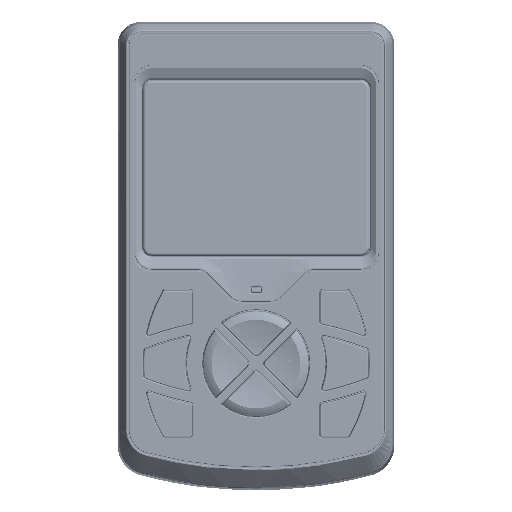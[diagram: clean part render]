
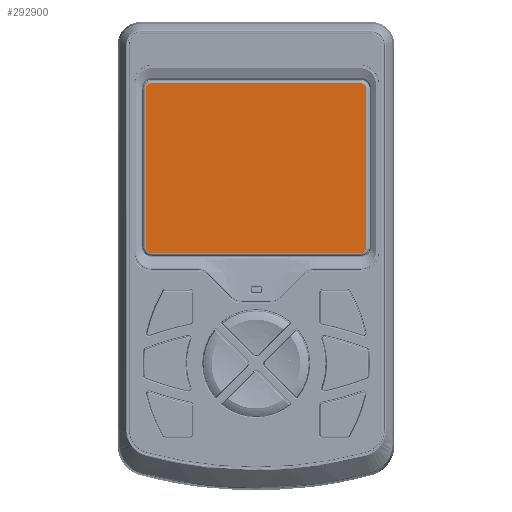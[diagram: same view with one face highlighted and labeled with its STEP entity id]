
A CAD part, top view. The second image highlights one B-rep face of the part: STEP entity #292900.
In plain terms, the highlighted planar face has unit normal (0, 0, 1).
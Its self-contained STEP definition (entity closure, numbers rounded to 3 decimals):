
#3630 = CARTESIAN_POINT ( 'NONE',  ( -35.85, 54.35, 7.77 ) ) ;
#13791 = LINE ( 'NONE', #452652, #624507 ) ;
#18425 = LINE ( 'NONE', #234472, #333065 ) ;
#19642 = AXIS2_PLACEMENT_3D ( 'NONE', #377569, #440967, #104932 ) ;
#36633 = AXIS2_PLACEMENT_3D ( 'NONE', #165065, #118880, #384629 ) ;
#53411 = VECTOR ( 'NONE', #591847, 1000. ) ;
#95253 = CIRCLE ( 'NONE', #355025, 2.196 ) ;
#97568 = CIRCLE ( 'NONE', #165688, 2.196 ) ;
#104932 = DIRECTION ( 'NONE',  ( -1., 0., 0. ) ) ;
#118880 = DIRECTION ( 'NONE',  ( 0., 0., 1. ) ) ;
#126708 = ORIENTED_EDGE ( 'NONE', *, *, #241587, .T. ) ;
#137390 = DIRECTION ( 'NONE',  ( 0., 0., -1. ) ) ;
#143144 = VERTEX_POINT ( 'NONE', #572512 ) ;
#153702 = CARTESIAN_POINT ( 'NONE',  ( -38.046, 0.25, 7.77 ) ) ;
#159848 = LINE ( 'NONE', #375963, #53411 ) ;
#161998 = EDGE_CURVE ( 'NONE', #471404, #356383, #95253, .T. ) ;
#165065 = CARTESIAN_POINT ( 'NONE',  ( 35.85, 0.25, 7.77 ) ) ;
#165688 = AXIS2_PLACEMENT_3D ( 'NONE', #635005, #694963, #528722 ) ;
#176369 = VECTOR ( 'NONE', #649725, 1000. ) ;
#190544 = FACE_OUTER_BOUND ( 'NONE', #639098, .T. ) ;
#191704 = CARTESIAN_POINT ( 'NONE',  ( 35.85, -1.946, 7.77 ) ) ;
#191852 = ORIENTED_EDGE ( 'NONE', *, *, #481629, .T. ) ;
#194029 = PLANE ( 'NONE',  #491176 ) ;
#213716 = EDGE_CURVE ( 'NONE', #356383, #336694, #13791, .T. ) ;
#234472 = CARTESIAN_POINT ( 'NONE',  ( 38.046, 54.35, 7.77 ) ) ;
#241587 = EDGE_CURVE ( 'NONE', #430019, #603615, #358778, .T. ) ;
#261650 = ORIENTED_EDGE ( 'NONE', *, *, #161998, .T. ) ;
#269770 = CARTESIAN_POINT ( 'NONE',  ( -35.85, 56.546, 7.77 ) ) ;
#292900 = ADVANCED_FACE ( 'NONE', ( #190544 ), #194029, .F. ) ;
#293257 = CARTESIAN_POINT ( 'NONE',  ( 37.72, 60.72, 7.77 ) ) ;
#312134 = CARTESIAN_POINT ( 'NONE',  ( 35.85, 56.546, 7.77 ) ) ;
#323501 = EDGE_CURVE ( 'NONE', #143144, #330877, #159848, .T. ) ;
#325826 = DIRECTION ( 'NONE',  ( -1., 0., 0. ) ) ;
#330877 = VERTEX_POINT ( 'NONE', #191704 ) ;
#333065 = VECTOR ( 'NONE', #450313, 1000. ) ;
#336176 = VERTEX_POINT ( 'NONE', #524708 ) ;
#336327 = DIRECTION ( 'NONE',  ( 0., 0., 1. ) ) ;
#336694 = VERTEX_POINT ( 'NONE', #153702 ) ;
#353561 = CIRCLE ( 'NONE', #36633, 2.196 ) ;
#355025 = AXIS2_PLACEMENT_3D ( 'NONE', #3630, #336327, #325826 ) ;
#356383 = VERTEX_POINT ( 'NONE', #687254 ) ;
#358778 = CIRCLE ( 'NONE', #19642, 2.196 ) ;
#375963 = CARTESIAN_POINT ( 'NONE',  ( 35.85, -1.946, 7.77 ) ) ;
#377569 = CARTESIAN_POINT ( 'NONE',  ( 35.85, 54.35, 7.77 ) ) ;
#384117 = LINE ( 'NONE', #600044, #176369 ) ;
#384629 = DIRECTION ( 'NONE',  ( -1., 0., 0. ) ) ;
#399539 = ORIENTED_EDGE ( 'NONE', *, *, #323501, .T. ) ;
#403995 = ORIENTED_EDGE ( 'NONE', *, *, #213716, .T. ) ;
#430019 = VERTEX_POINT ( 'NONE', #600905 ) ;
#436282 = ORIENTED_EDGE ( 'NONE', *, *, #533772, .T. ) ;
#440967 = DIRECTION ( 'NONE',  ( 0., 0., 1. ) ) ;
#450313 = DIRECTION ( 'NONE',  ( 0., 1., 0. ) ) ;
#452652 = CARTESIAN_POINT ( 'NONE',  ( -38.046, 0.25, 7.77 ) ) ;
#462388 = ORIENTED_EDGE ( 'NONE', *, *, #562001, .T. ) ;
#471404 = VERTEX_POINT ( 'NONE', #269770 ) ;
#481629 = EDGE_CURVE ( 'NONE', #603615, #471404, #384117, .T. ) ;
#491176 = AXIS2_PLACEMENT_3D ( 'NONE', #293257, #137390, #512794 ) ;
#512794 = DIRECTION ( 'NONE',  ( -1., 0., 0. ) ) ;
#524708 = CARTESIAN_POINT ( 'NONE',  ( 38.046, 0.25, 7.77 ) ) ;
#528722 = DIRECTION ( 'NONE',  ( -1., 0., 0. ) ) ;
#533772 = EDGE_CURVE ( 'NONE', #336694, #143144, #97568, .T. ) ;
#562001 = EDGE_CURVE ( 'NONE', #336176, #430019, #18425, .T. ) ;
#562512 = DIRECTION ( 'NONE',  ( 0., -1., 0. ) ) ;
#572512 = CARTESIAN_POINT ( 'NONE',  ( -35.85, -1.946, 7.77 ) ) ;
#576086 = ORIENTED_EDGE ( 'NONE', *, *, #622737, .T. ) ;
#591847 = DIRECTION ( 'NONE',  ( 1., 0., 0. ) ) ;
#600044 = CARTESIAN_POINT ( 'NONE',  ( -35.85, 56.546, 7.77 ) ) ;
#600905 = CARTESIAN_POINT ( 'NONE',  ( 38.046, 54.35, 7.77 ) ) ;
#603615 = VERTEX_POINT ( 'NONE', #312134 ) ;
#622737 = EDGE_CURVE ( 'NONE', #330877, #336176, #353561, .T. ) ;
#624507 = VECTOR ( 'NONE', #562512, 1000. ) ;
#635005 = CARTESIAN_POINT ( 'NONE',  ( -35.85, 0.25, 7.77 ) ) ;
#639098 = EDGE_LOOP ( 'NONE', ( #191852, #261650, #403995, #436282, #399539, #576086, #462388, #126708 ) ) ;
#649725 = DIRECTION ( 'NONE',  ( -1., 0., 0. ) ) ;
#687254 = CARTESIAN_POINT ( 'NONE',  ( -38.046, 54.35, 7.77 ) ) ;
#694963 = DIRECTION ( 'NONE',  ( 0., 0., 1. ) ) ;
